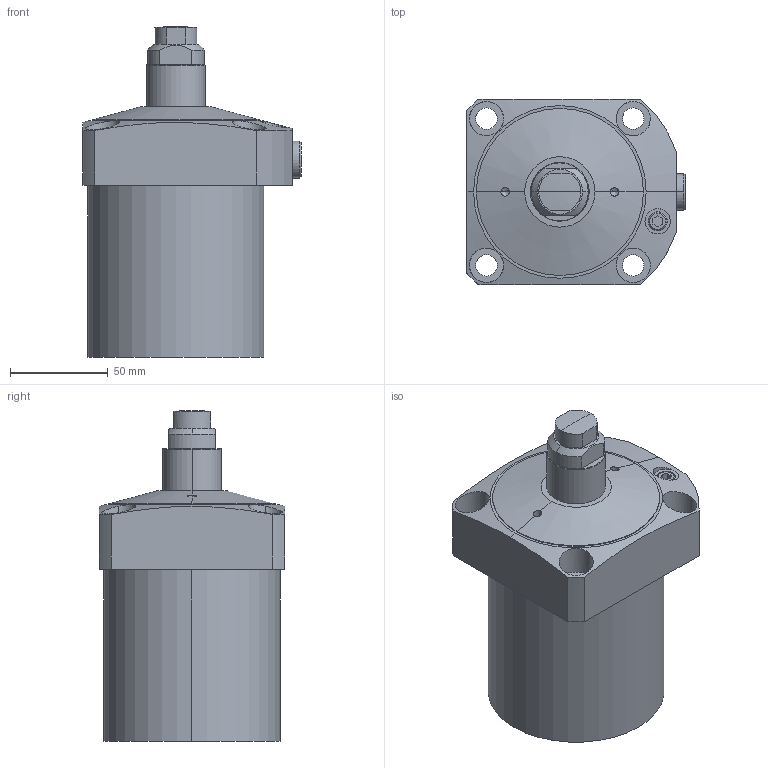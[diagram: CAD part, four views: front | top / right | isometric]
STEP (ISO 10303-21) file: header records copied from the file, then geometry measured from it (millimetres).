
FILE_DESCRIPTION(/* description */ (''),/* implementation_level */ '2;1');
FILE_NAME(/* name */ 'KFSS90.stp',/* time_stamp */ '2022-11-17T07:46:48+08:00',/* author */ (''),/* organization */ (''),/* preprocessor_version */ 'ST-DEVELOPER v16.7',/* originating_system */ 'SIEMENS PLM Software NX 12.0',/* authorisation */ '');
FILE_SCHEMA (('AP203_CONFIGURATION_CONTROLLED_3D_DESIGN_OF_MECHANICAL_PARTS_AND_ASSEMBLIES_MIM_LF { 1 0 10303 403 2 1 2}'));
Length unit declared in the file: millimetre
Products named in the file (5): KFSS90-04; KFSS90-03; KFSS90-02; KFSS90-01; LC0902-Cx-E_step
Assembly tree (4 placements, depth 2):
  LC0902-Cx-E_step
    KFSS90-01
    KFSS90-02
    KFSS90-03
    KFSS90-04
Bounding box: 111.5 x 95 x 169 mm (x, y, z)
Volume: 899810.6 mm3; surface area: 67422 mm2
Topology: 4 solids, 4 shells, 117 faces, 266 edges, 167 vertices
Faces by surface type: cylinder 50, plane 43, cone 20, torus 2, bspline 2
Entity records: 4066 total; most frequent: CARTESIAN_POINT 839, DIRECTION 588, ORIENTED_EDGE 520, EDGE_CURVE 260, AXIS2_PLACEMENT_3D 232, VERTEX_POINT 167, EDGE_LOOP 141, LINE 124
